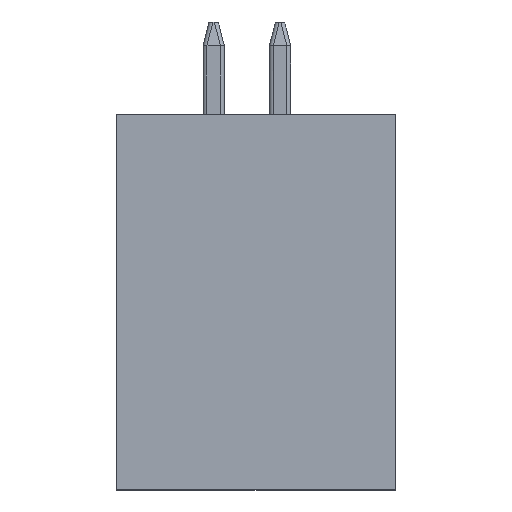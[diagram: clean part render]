
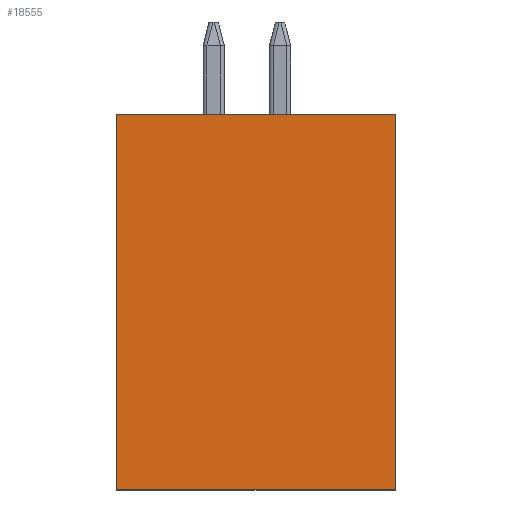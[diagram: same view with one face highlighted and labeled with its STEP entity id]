
A CAD part, top view. The second image highlights one B-rep face of the part: STEP entity #18555.
In plain terms, the highlighted planar face has unit normal (0, 0, 1).
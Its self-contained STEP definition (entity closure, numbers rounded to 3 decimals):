
#1807=DIRECTION('',(1.,0.,0.));
#1808=VECTOR('',#1807,10.5);
#1809=CARTESIAN_POINT('',(-4.9,17.1,3.4));
#1810=LINE('',#1809,#1808);
#2270=DIRECTION('',(0.,-1.,0.));
#2271=VECTOR('',#2270,14.1);
#2272=CARTESIAN_POINT('',(5.6,17.1,3.4));
#2273=LINE('',#2272,#2271);
#2929=DIRECTION('',(1.,0.,0.));
#2930=VECTOR('',#2929,10.5);
#2931=CARTESIAN_POINT('',(-4.9,3.,3.4));
#2932=LINE('',#2931,#2930);
#2933=DIRECTION('',(0.,-1.,0.));
#2934=VECTOR('',#2933,14.1);
#2935=CARTESIAN_POINT('',(-4.9,17.1,3.4));
#2936=LINE('',#2935,#2934);
#13053=CARTESIAN_POINT('',(-4.9,17.1,3.4));
#13054=VERTEX_POINT('',#13053);
#13055=CARTESIAN_POINT('',(-4.9,3.,3.4));
#13056=VERTEX_POINT('',#13055);
#13065=CARTESIAN_POINT('',(5.6,3.,3.4));
#13066=VERTEX_POINT('',#13065);
#13091=CARTESIAN_POINT('',(5.6,17.1,3.4));
#13092=VERTEX_POINT('',#13091);
#18544=CARTESIAN_POINT('',(-4.9,17.1,3.4));
#18545=DIRECTION('',(0.,0.,1.));
#18546=DIRECTION('',(0.,-1.,0.));
#18547=AXIS2_PLACEMENT_3D('',#18544,#18545,#18546);
#18548=PLANE('',#18547);
#18549=ORIENTED_EDGE('',*,*,#17827,.F.);
#18550=ORIENTED_EDGE('',*,*,#17290,.F.);
#18551=ORIENTED_EDGE('',*,*,#16772,.T.);
#18552=ORIENTED_EDGE('',*,*,#17515,.T.);
#18553=EDGE_LOOP('',(#18549,#18550,#18551,#18552));
#18554=FACE_OUTER_BOUND('',#18553,.F.);
#18555=ADVANCED_FACE('',(#18554),#18548,.T.);
#16772=EDGE_CURVE('',#13054,#13092,#1810,.T.);
#17290=EDGE_CURVE('',#13054,#13056,#2936,.T.);
#17515=EDGE_CURVE('',#13092,#13066,#2273,.T.);
#17827=EDGE_CURVE('',#13056,#13066,#2932,.T.);
